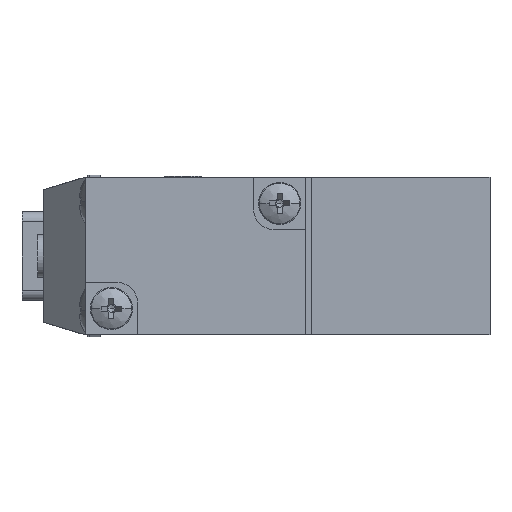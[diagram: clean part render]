
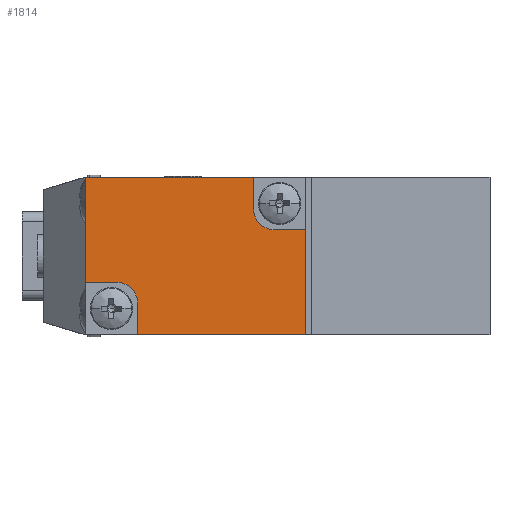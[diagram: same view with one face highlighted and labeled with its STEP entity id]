
A CAD part, left-side view. The second image highlights one B-rep face of the part: STEP entity #1814.
In plain terms, the highlighted planar face has unit normal (-1, 0, 0).
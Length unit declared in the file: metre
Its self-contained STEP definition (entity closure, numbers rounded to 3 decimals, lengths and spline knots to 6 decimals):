
#158 = ORIENTED_EDGE ( 'NONE', *, *, #4860, .F. ) ;
#225 = VECTOR ( 'NONE', #1062, 1. ) ;
#498 = VERTEX_POINT ( 'NONE', #6319 ) ;
#573 = CIRCLE ( 'NONE', #2024, 0.002 ) ;
#619 = DIRECTION ( 'NONE',  ( 0., 1., 0. ) ) ;
#697 = PLANE ( 'NONE',  #862 ) ;
#712 = LINE ( 'NONE', #4294, #6587 ) ;
#730 = CARTESIAN_POINT ( 'NONE',  ( -0.009, 0., 0.0075 ) ) ;
#767 = DIRECTION ( 'NONE',  ( 1., 0., 0. ) ) ;
#770 = EDGE_CURVE ( 'NONE', #498, #1904, #4198, .T. ) ;
#795 = DIRECTION ( 'NONE',  ( 0., 0., -1. ) ) ;
#804 = CARTESIAN_POINT ( 'NONE',  ( -0.009, 0.0015, 0.0025 ) ) ;
#852 = CARTESIAN_POINT ( 'NONE',  ( -0.009, 0.005, 0.006 ) ) ;
#862 = AXIS2_PLACEMENT_3D ( 'NONE', #730, #767, #795 ) ;
#990 = CARTESIAN_POINT ( 'NONE',  ( -0.009, 0.021, 0. ) ) ;
#1062 = DIRECTION ( 'NONE',  ( 0., 0., -1. ) ) ;
#1125 = EDGE_CURVE ( 'NONE', #5823, #9142, #573, .T. ) ;
#1209 = ORIENTED_EDGE ( 'NONE', *, *, #9389, .T. ) ;
#1257 = CARTESIAN_POINT ( 'NONE',  ( -0.009, 0.003, 0.0025 ) ) ;
#1334 = LINE ( 'NONE', #4109, #9982 ) ;
#1393 = CARTESIAN_POINT ( 'NONE',  ( -0.009, 0.021, 0.0075 ) ) ;
#1487 = VECTOR ( 'NONE', #619, 1. ) ;
#1602 = VECTOR ( 'NONE', #7554, 1. ) ;
#1720 = CARTESIAN_POINT ( 'NONE',  ( -0.009, 0.016, -0.0045 ) ) ;
#1814 = ADVANCED_FACE ( 'NONE', ( #4444 ), #697, .F. ) ;
#1829 = DIRECTION ( 'NONE',  ( 0., 1., 0. ) ) ;
#1904 = VERTEX_POINT ( 'NONE', #1257 ) ;
#2005 = VECTOR ( 'NONE', #3138, 1. ) ;
#2024 = AXIS2_PLACEMENT_3D ( 'NONE', #5927, #5782, #5955 ) ;
#2209 = LINE ( 'NONE', #4001, #6651 ) ;
#2233 = EDGE_CURVE ( 'NONE', #7964, #5823, #1334, .T. ) ;
#2555 = EDGE_LOOP ( 'NONE', ( #5313, #6000, #1209, #4967, #4424, #3518, #6288, #9706, #158, #7033 ) ) ;
#2852 = CARTESIAN_POINT ( 'NONE',  ( -0.009, 0.005, 0.0075 ) ) ;
#2930 = LINE ( 'NONE', #990, #225 ) ;
#3138 = DIRECTION ( 'NONE',  ( 0., 1., 0. ) ) ;
#3185 = EDGE_CURVE ( 'NONE', #4999, #498, #8794, .T. ) ;
#3480 = VERTEX_POINT ( 'NONE', #2852 ) ;
#3518 = ORIENTED_EDGE ( 'NONE', *, *, #8080, .F. ) ;
#3937 = CARTESIAN_POINT ( 'NONE',  ( -0.009, 0.003, 0.0045 ) ) ;
#4001 = CARTESIAN_POINT ( 'NONE',  ( -0.009, 0.0105, -0.0075 ) ) ;
#4016 = DIRECTION ( 'NONE',  ( 0., 1., 0. ) ) ;
#4109 = CARTESIAN_POINT ( 'NONE',  ( -0.009, 0.016, 0. ) ) ;
#4198 = LINE ( 'NONE', #804, #1487 ) ;
#4248 = VERTEX_POINT ( 'NONE', #1393 ) ;
#4269 = DIRECTION ( 'NONE',  ( 0., 0., 1. ) ) ;
#4294 = CARTESIAN_POINT ( 'NONE',  ( -0.009, 0.0105, 0.0075 ) ) ;
#4424 = ORIENTED_EDGE ( 'NONE', *, *, #6574, .T. ) ;
#4444 = FACE_OUTER_BOUND ( 'NONE', #2555, .T. ) ;
#4759 = DIRECTION ( 'NONE',  ( 0., 0., -1. ) ) ;
#4860 = EDGE_CURVE ( 'NONE', #4999, #7964, #2209, .T. ) ;
#4967 = ORIENTED_EDGE ( 'NONE', *, *, #8292, .T. ) ;
#4999 = VERTEX_POINT ( 'NONE', #5937 ) ;
#5213 = AXIS2_PLACEMENT_3D ( 'NONE', #3937, #9825, #4759 ) ;
#5313 = ORIENTED_EDGE ( 'NONE', *, *, #770, .T. ) ;
#5427 = CARTESIAN_POINT ( 'NONE',  ( -0.009, 0.005, 0.0045 ) ) ;
#5613 = CARTESIAN_POINT ( 'NONE',  ( -0.009, 0.021, -0.0025 ) ) ;
#5782 = DIRECTION ( 'NONE',  ( -1., 0., 0. ) ) ;
#5823 = VERTEX_POINT ( 'NONE', #1720 ) ;
#5927 = CARTESIAN_POINT ( 'NONE',  ( -0.009, 0.018, -0.0045 ) ) ;
#5937 = CARTESIAN_POINT ( 'NONE',  ( -0.009, 0., -0.0075 ) ) ;
#5955 = DIRECTION ( 'NONE',  ( 0., 0., -1. ) ) ;
#6000 = ORIENTED_EDGE ( 'NONE', *, *, #9963, .F. ) ;
#6242 = CARTESIAN_POINT ( 'NONE',  ( -0.009, 0.018, -0.0025 ) ) ;
#6288 = ORIENTED_EDGE ( 'NONE', *, *, #1125, .F. ) ;
#6300 = LINE ( 'NONE', #852, #1602 ) ;
#6319 = CARTESIAN_POINT ( 'NONE',  ( -0.009, 0., 0.0025 ) ) ;
#6574 = EDGE_CURVE ( 'NONE', #4248, #7405, #2930, .T. ) ;
#6587 = VECTOR ( 'NONE', #1829, 1. ) ;
#6651 = VECTOR ( 'NONE', #4016, 1. ) ;
#6722 = LINE ( 'NONE', #7353, #2005 ) ;
#7033 = ORIENTED_EDGE ( 'NONE', *, *, #3185, .T. ) ;
#7353 = CARTESIAN_POINT ( 'NONE',  ( -0.009, 0.0105, -0.0025 ) ) ;
#7405 = VERTEX_POINT ( 'NONE', #5613 ) ;
#7554 = DIRECTION ( 'NONE',  ( 0., 0., 1. ) ) ;
#7964 = VERTEX_POINT ( 'NONE', #10548 ) ;
#8029 = CIRCLE ( 'NONE', #5213, 0.002 ) ;
#8080 = EDGE_CURVE ( 'NONE', #9142, #7405, #6722, .T. ) ;
#8292 = EDGE_CURVE ( 'NONE', #3480, #4248, #712, .T. ) ;
#8429 = DIRECTION ( 'NONE',  ( 0., 0., 1. ) ) ;
#8527 = VECTOR ( 'NONE', #8429, 1. ) ;
#8677 = CARTESIAN_POINT ( 'NONE',  ( -0.009, 0., 0. ) ) ;
#8794 = LINE ( 'NONE', #8677, #8527 ) ;
#9142 = VERTEX_POINT ( 'NONE', #6242 ) ;
#9152 = VERTEX_POINT ( 'NONE', #5427 ) ;
#9389 = EDGE_CURVE ( 'NONE', #9152, #3480, #6300, .T. ) ;
#9706 = ORIENTED_EDGE ( 'NONE', *, *, #2233, .F. ) ;
#9825 = DIRECTION ( 'NONE',  ( -1., 0., 0. ) ) ;
#9963 = EDGE_CURVE ( 'NONE', #9152, #1904, #8029, .T. ) ;
#9982 = VECTOR ( 'NONE', #4269, 1. ) ;
#10548 = CARTESIAN_POINT ( 'NONE',  ( -0.009, 0.016, -0.0075 ) ) ;
